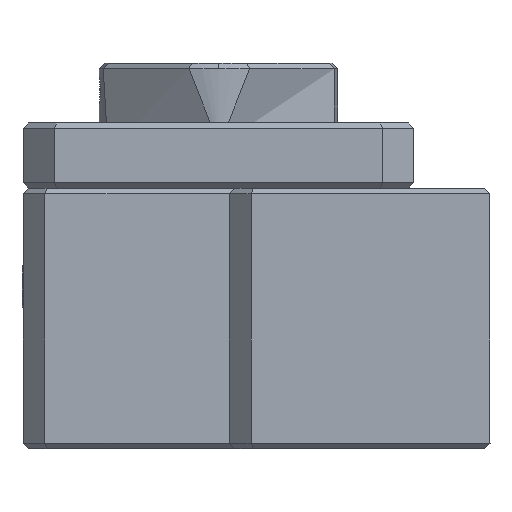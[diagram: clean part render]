
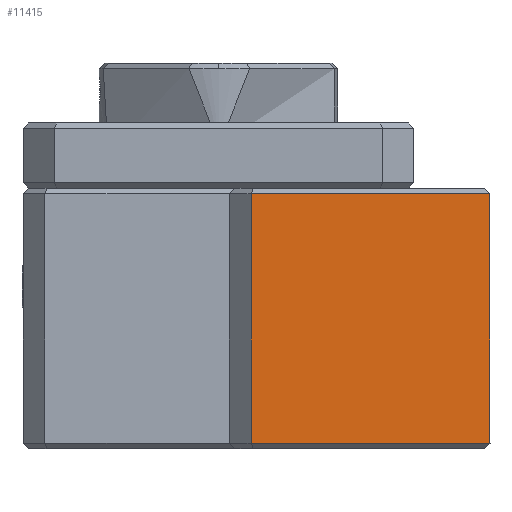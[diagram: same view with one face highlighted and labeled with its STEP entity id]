
A CAD part, left-side view. The second image highlights one B-rep face of the part: STEP entity #11415.
In plain terms, the highlighted planar face has unit normal (1, 0, 0).
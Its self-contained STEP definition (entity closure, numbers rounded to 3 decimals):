
#24 = EDGE_LOOP ( 'NONE', ( #3128, #9170, #10899, #2784 ) ) ;
#1073 = CARTESIAN_POINT ( 'NONE',  ( -74.89, 17.966, 11.5 ) ) ;
#1279 = CARTESIAN_POINT ( 'NONE',  ( -74.89, 10.633, 11.5 ) ) ;
#1350 = B_SPLINE_CURVE_WITH_KNOTS ( 'NONE', 3,
 ( #13219, #6812, #11927, #8014 ),
 .UNSPECIFIED., .F., .F.,
 ( 4, 4 ),
 ( 0., 1. ),
 .UNSPECIFIED. ) ;
#1607 = B_SPLINE_CURVE_WITH_KNOTS ( 'NONE', 3,
 ( #5170, #1073, #1279, #2367 ),
 .UNSPECIFIED., .F., .F.,
 ( 4, 4 ),
 ( 0., 1. ),
 .UNSPECIFIED. ) ;
#1716 = CARTESIAN_POINT ( 'NONE',  ( -74.89, 25.299, -3.833 ) ) ;
#1844 = VERTEX_POINT ( 'NONE', #12469 ) ;
#2367 = CARTESIAN_POINT ( 'NONE',  ( -74.89, 3.299, 11.5 ) ) ;
#2784 = ORIENTED_EDGE ( 'NONE', *, *, #13451, .F. ) ;
#2987 = VERTEX_POINT ( 'NONE', #5572 ) ;
#3069 = FACE_OUTER_BOUND ( 'NONE', #24, .T. ) ;
#3128 = ORIENTED_EDGE ( 'NONE', *, *, #10412, .T. ) ;
#3180 = AXIS2_PLACEMENT_3D ( 'NONE', #6419, #12890, #5469 ) ;
#4158 = CARTESIAN_POINT ( 'NONE',  ( -74.89, 17.966, -11.5 ) ) ;
#5170 = CARTESIAN_POINT ( 'NONE',  ( -74.89, 25.299, 11.5 ) ) ;
#5402 = CARTESIAN_POINT ( 'NONE',  ( -74.89, 25.299, 11.5 ) ) ;
#5431 = CARTESIAN_POINT ( 'NONE',  ( -74.89, 25.299, -11.5 ) ) ;
#5469 = DIRECTION ( 'NONE',  ( 0., 1., 0. ) ) ;
#5572 = CARTESIAN_POINT ( 'NONE',  ( -74.89, 3.299, 11.5 ) ) ;
#6419 = CARTESIAN_POINT ( 'NONE',  ( -74.89, 3.299, 11.5 ) ) ;
#6812 = CARTESIAN_POINT ( 'NONE',  ( -74.89, 3.299, -3.833 ) ) ;
#7224 = PLANE ( 'NONE',  #3180 ) ;
#7710 = B_SPLINE_CURVE_WITH_KNOTS ( 'NONE', 3,
 ( #13116, #8924, #1716, #10040 ),
 .UNSPECIFIED., .F., .F.,
 ( 4, 4 ),
 ( 0., 1. ),
 .UNSPECIFIED. ) ;
#8014 = CARTESIAN_POINT ( 'NONE',  ( -74.89, 3.299, 11.5 ) ) ;
#8282 = CARTESIAN_POINT ( 'NONE',  ( -74.89, 25.299, -11.5 ) ) ;
#8510 = EDGE_CURVE ( 'NONE', #1844, #2987, #1350, .T. ) ;
#8924 = CARTESIAN_POINT ( 'NONE',  ( -74.89, 25.299, 3.833 ) ) ;
#9170 = ORIENTED_EDGE ( 'NONE', *, *, #8510, .F. ) ;
#9441 = EDGE_CURVE ( 'NONE', #1844, #9621, #10551, .T. ) ;
#9621 = VERTEX_POINT ( 'NONE', #5431 ) ;
#10040 = CARTESIAN_POINT ( 'NONE',  ( -74.89, 25.299, -11.5 ) ) ;
#10412 = EDGE_CURVE ( 'NONE', #11506, #2987, #1607, .T. ) ;
#10551 = B_SPLINE_CURVE_WITH_KNOTS ( 'NONE', 3,
 ( #12603, #12389, #4158, #8282 ),
 .UNSPECIFIED., .F., .F.,
 ( 4, 4 ),
 ( 0., 1. ),
 .UNSPECIFIED. ) ;
#10899 = ORIENTED_EDGE ( 'NONE', *, *, #9441, .T. ) ;
#11415 = ADVANCED_FACE ( 'NONE', ( #3069 ), #7224, .T. ) ;
#11506 = VERTEX_POINT ( 'NONE', #5402 ) ;
#11927 = CARTESIAN_POINT ( 'NONE',  ( -74.89, 3.299, 3.833 ) ) ;
#12389 = CARTESIAN_POINT ( 'NONE',  ( -74.89, 10.633, -11.5 ) ) ;
#12469 = CARTESIAN_POINT ( 'NONE',  ( -74.89, 3.299, -11.5 ) ) ;
#12603 = CARTESIAN_POINT ( 'NONE',  ( -74.89, 3.299, -11.5 ) ) ;
#12890 = DIRECTION ( 'NONE',  ( 1., 0., 0. ) ) ;
#13116 = CARTESIAN_POINT ( 'NONE',  ( -74.89, 25.299, 11.5 ) ) ;
#13219 = CARTESIAN_POINT ( 'NONE',  ( -74.89, 3.299, -11.5 ) ) ;
#13451 = EDGE_CURVE ( 'NONE', #11506, #9621, #7710, .T. ) ;
